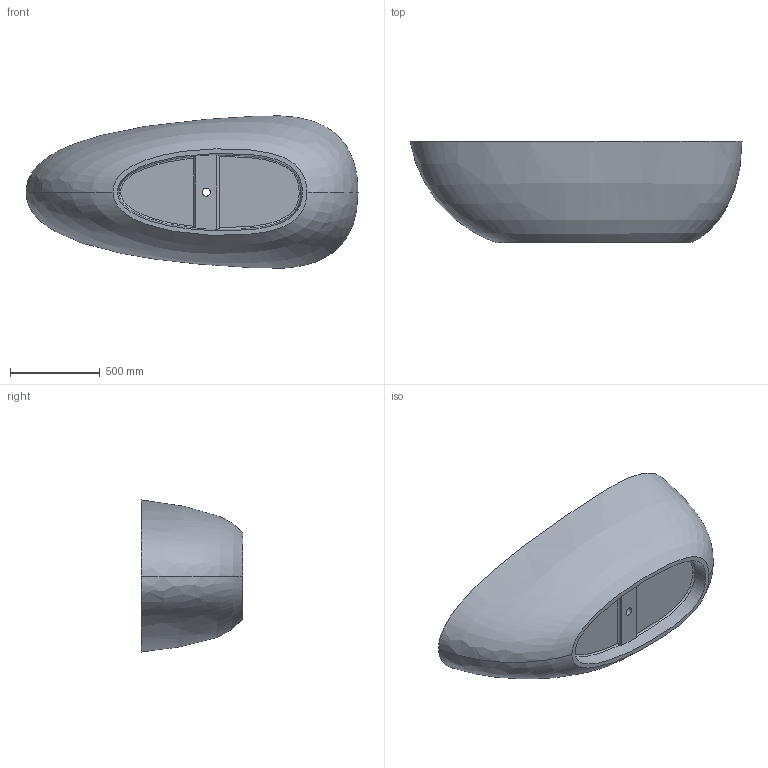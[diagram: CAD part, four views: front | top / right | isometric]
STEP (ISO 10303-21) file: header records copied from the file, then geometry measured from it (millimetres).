
FILE_DESCRIPTION (( 'STEP AP203' ), '1' );
FILE_NAME ('TC-S06B (2).STEP', '2019-05-21T07:11:51', ( '旮僅薊襠http://www.deepbbs.org' ), ( 'http://www.deepbbs.org' ), 'SwSTEP 2.0', 'SolidWorks 2016', '' );
FILE_SCHEMA (( 'CONFIG_CONTROL_DESIGN' ));
Length unit declared in the file: millimetre
Products named in the file (1): TC-S06B (2)
Bounding box: 1850 x 565 x 848.44 mm (x, y, z)
Volume: 131681090.7 mm3; surface area: 5465687 mm2
Topology: 1 solids, 1 shells, 31 faces, 77 edges, 50 vertices
Faces by surface type: bspline 15, plane 8, cylinder 6, cone 2
Entity records: 7079 total; most frequent: CARTESIAN_POINT 6390, ORIENTED_EDGE 154, DIRECTION 78, EDGE_CURVE 77, VERTEX_POINT 50, B_SPLINE_CURVE_WITH_KNOTS 47, EDGE_LOOP 35, FACE_OUTER_BOUND 31
